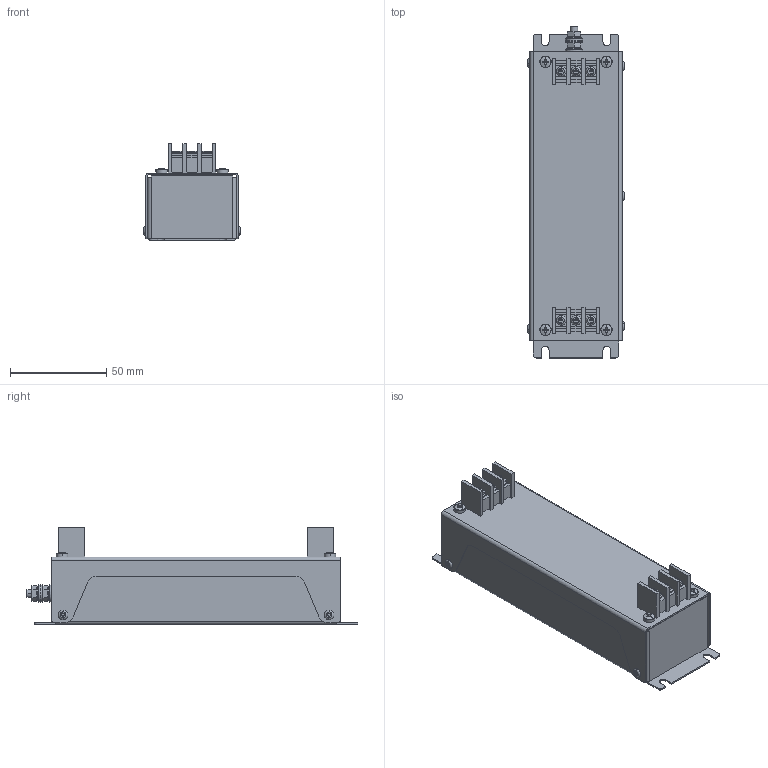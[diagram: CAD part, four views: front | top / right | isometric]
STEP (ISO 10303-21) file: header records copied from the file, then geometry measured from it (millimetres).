
FILE_DESCRIPTION (( 'STEP AP203' ), '1' );
FILE_NAME ('ÝÌÑ ôèëüòð _ IEF-0.75_9.0-2.STEP', '2025-07-21T11:42:24', ( '' ), ( '' ), 'SwSTEP 2.0', 'SolidWorks 2021', '' );
FILE_SCHEMA (( 'CONFIG_CONTROL_DESIGN' ));
Length unit declared in the file: millimetre
Products named in the file (10): Øàéáà ïëîñêàÿ DIN 125 (A)_Œ4; 抔樦擨鴀; ÝÌÑ ôèëüòð _ IEF-0.75_9.0-2; Øàéáà ïðóæèííàÿ DIN 127 (A)_Œ4; Ãàéêà DIN 934_Œ4; Áîëò DIN 933_Œ4å16; 扻豵鵨; Êðûøêà; Çàêëåïêà DIN 7337_2.4å6; Âèíò DIN 7985 PH_Œ3å14
Assembly tree (21 placements, depth 2):
  ÝÌÑ ôèëüòð _ IEF-0.75_9.0-2
    扻豵鵨
    Çàêëåïêà DIN 7337_2.4å6  x5
    Êðûøêà
    抔樦擨鴀  x2
    Âèíò DIN 7985 PH_Œ3å14  x4
    Áîëò DIN 933_Œ4å16
    Ãàéêà DIN 934_Œ4  x2
    Øàéáà ïëîñêàÿ DIN 125 (A)_Œ4  x3
    Øàéáà ïðóæèííàÿ DIN 127 (A)_Œ4  x2
Bounding box: 50 x 172.2 x 50.3 mm (x, y, z)
Volume: 32830.7 mm3; surface area: 70356.7 mm2
Topology: 21 solids, 21 shells, 800 faces, 1958 edges, 1242 vertices
Faces by surface type: plane 478, cylinder 156, cone 98, torus 48, bspline 12, sphere 8
Entity records: 14215 total; most frequent: CARTESIAN_POINT 2479, DIRECTION 2182, ORIENTED_EDGE 2124, EDGE_CURVE 1062, AXIS2_PLACEMENT_3D 736, VECTOR 710, LINE 710, VERTEX_POINT 685
